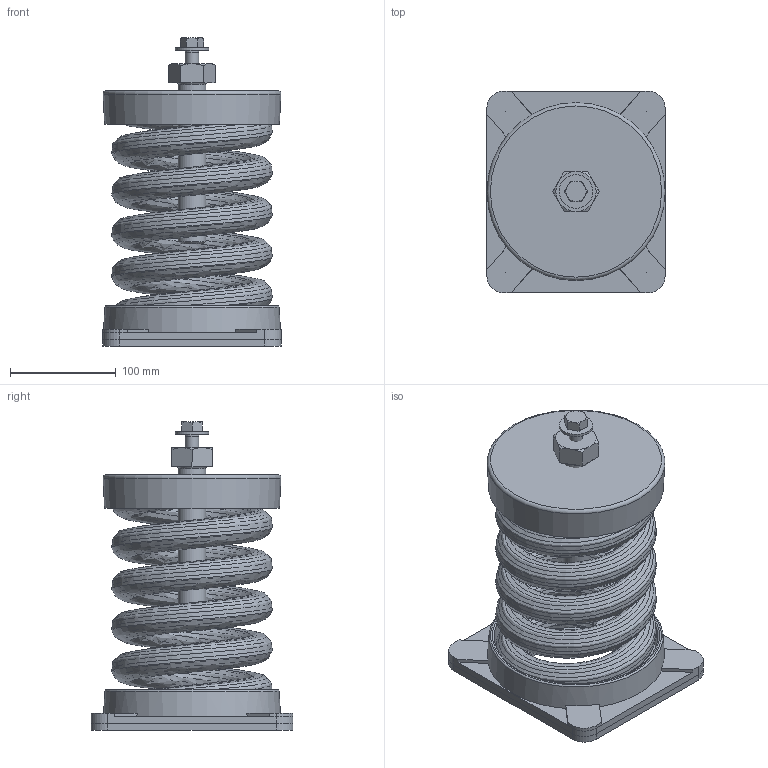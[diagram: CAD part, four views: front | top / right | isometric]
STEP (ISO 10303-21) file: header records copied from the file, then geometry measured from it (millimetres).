
FILE_DESCRIPTION(/* description */ (''),/* implementation_level */ '2;1');
FILE_NAME(/* name */ '\\Mleuckthor2\cad-proe_solids\WEBSITE FILES 05.22.13\STEP\SLF-100 SERIES\SLF-113.stp',/* time_stamp */ '2016-01-14T13:24:49-05:00',/* author */ ('rramoutar'),/* organization */ ('Mason Industries Inc.'),/* preprocessor_version */ 'ST-DEVELOPER v15.6',/* originating_system */ 'Autodesk Inventor 2015',/* authorisation */ '');
FILE_SCHEMA (('CONFIG_CONTROL_DESIGN'));
Length unit declared in the file: inch
Products named in the file (1): SLF-113
Bounding box: 168.28 x 190.5 x 291.19 mm (x, y, z)
Volume: 914767.6 mm3; surface area: 602319 mm2
Topology: 7 solids, 7 shells, 228 faces, 549 edges, 340 vertices
Faces by surface type: plane 135, cone 34, cylinder 32, bspline 22, torus 5
Full cylindrical faces by diameter (mm): 10.592 x1, 12.7 x5, 13.487 x1, 15.875 x4, 19.05 x1, 22.225 x1, 25.959 x1, 31.75 x1, 38.1 x1, 88.9 x2, 154.781 x1, 155.575 x1
Entity records: 16613 total; most frequent: CARTESIAN_POINT 11496, ORIENTED_EDGE 1006, DIRECTION 926, EDGE_CURVE 503, AXIS2_PLACEMENT_3D 336, VERTEX_POINT 329, EDGE_LOOP 286, LINE 254
